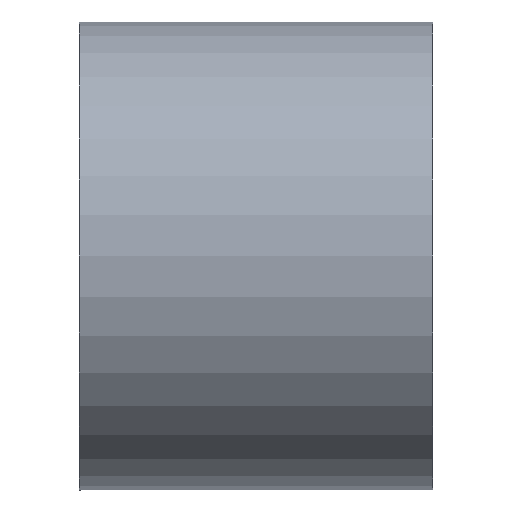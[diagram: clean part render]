
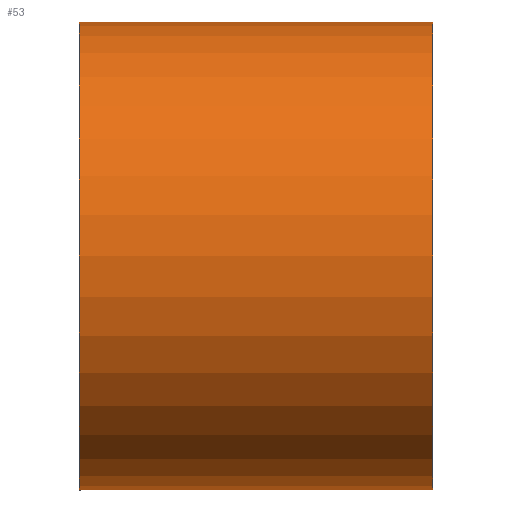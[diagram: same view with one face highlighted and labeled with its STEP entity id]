
A CAD part, front view. The second image highlights one B-rep face of the part: STEP entity #53.
In plain terms, the highlighted cylindrical face has radius 3.969 mm (diameter 7.938 mm), a full revolution.
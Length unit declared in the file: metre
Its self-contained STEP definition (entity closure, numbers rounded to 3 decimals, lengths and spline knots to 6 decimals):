
#16=ORIENTED_EDGE('',*,*,#24,.F.);
#17=ORIENTED_EDGE('',*,*,#25,.T.);
#24=EDGE_CURVE('',#28,#28,#32,.T.);
#25=EDGE_CURVE('',#29,#29,#33,.T.);
#28=VERTEX_POINT('',#103);
#29=VERTEX_POINT('',#105);
#32=CIRCLE('',#73,0.003969);
#33=CIRCLE('',#74,0.003969);
#36=EDGE_LOOP('',(#16));
#37=EDGE_LOOP('',(#17));
#44=FACE_BOUND('',#36,.T.);
#45=FACE_BOUND('',#37,.T.);
#51=CYLINDRICAL_SURFACE('',#72,0.003969);
#53=ADVANCED_FACE('',(#44,#45),#51,.T.);
#72=AXIS2_PLACEMENT_3D('',#101,#85,#86);
#73=AXIS2_PLACEMENT_3D('',#102,#87,#88);
#74=AXIS2_PLACEMENT_3D('',#104,#89,#90);
#85=DIRECTION('',(-1.,0.,0.));
#86=DIRECTION('',(0.,-1.,0.));
#87=DIRECTION('',(1.,0.,0.));
#88=DIRECTION('',(0.,-1.,0.));
#89=DIRECTION('',(1.,0.,0.));
#90=DIRECTION('',(0.,1.,0.));
#101=CARTESIAN_POINT('',(-0.046327,0.017834,-0.052701));
#102=CARTESIAN_POINT('',(-0.046677,0.017834,-0.052701));
#103=CARTESIAN_POINT('',(-0.046677,0.013866,-0.052701));
#104=CARTESIAN_POINT('',(-0.052677,0.017834,-0.052701));
#105=CARTESIAN_POINT('',(-0.052677,0.021803,-0.052701));
